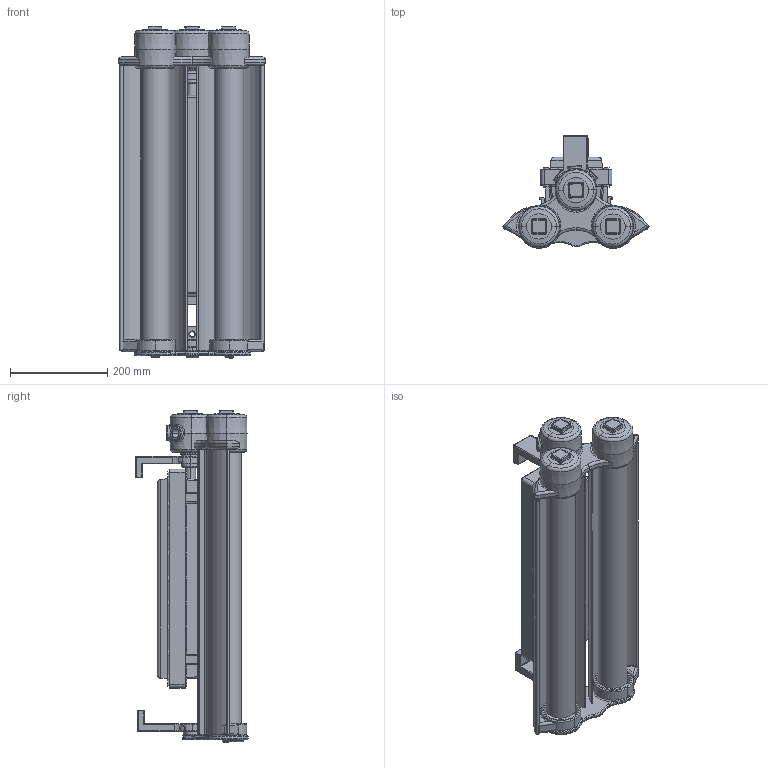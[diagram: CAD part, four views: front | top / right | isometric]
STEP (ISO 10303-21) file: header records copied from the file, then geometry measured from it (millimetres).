
FILE_DESCRIPTION (( 'STEP AP203' ), '1' );
FILE_NAME ('EPL-24-2L Surface Mount.STEP', '2013-06-13T04:22:26', ( 'CAD' ), ( 'Toshiba' ), 'SwSTEP 2.0', 'SolidWorks 2011', '' );
FILE_SCHEMA (( 'CONFIG_CONTROL_DESIGN' ));
Length unit declared in the file: inch
Products named in the file (10): EPL-24-2L Surface Mount; Update Reflector; Glass tube2ft; Spider End; End Support; connect 1; Ballast; connect 2; quarter screw; Hinge mt.
Assembly tree (16 placements, depth 2):
  EPL-24-2L Surface Mount
    Update Reflector  x2
    Spider End
    quarter screw  x4
    connect 1  x2
    Ballast
    Glass tube2ft  x2
    connect 2
    Hinge mt.  x2
    End Support
Bounding box: 301.4 x 230.87 x 683.46 mm (x, y, z)
Volume: 10923646.5 mm3; surface area: 1219985.6 mm2
Topology: 18 solids, 18 shells, 1009 faces, 2435 edges, 1481 vertices
Faces by surface type: plane 511, cylinder 248, torus 147, cone 46, bspline 29, sphere 28
Entity records: 29349 total; most frequent: CARTESIAN_POINT 9237, ORIENTED_EDGE 3976, DIRECTION 3893, EDGE_CURVE 1988, AXIS2_PLACEMENT_3D 1340, VERTEX_POINT 1235, LINE 1213, VECTOR 1213
